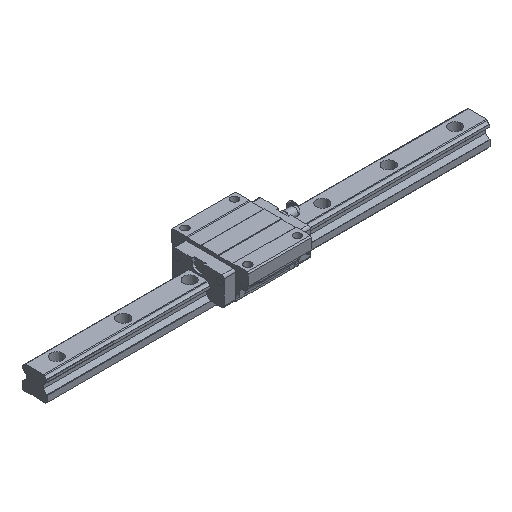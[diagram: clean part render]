
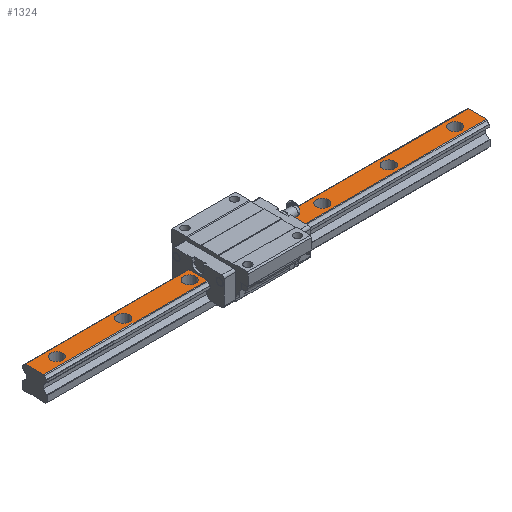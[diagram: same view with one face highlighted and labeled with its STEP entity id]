
A CAD part, isometric view. The second image highlights one B-rep face of the part: STEP entity #1324.
In plain terms, the highlighted planar face has unit normal (0, 0, 1).
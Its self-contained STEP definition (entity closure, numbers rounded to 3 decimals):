
#137=CARTESIAN_POINT('',(385.5,0.,21.7));
#138=VERTEX_POINT('',#137);
#139=CARTESIAN_POINT('',(380.0,0.,21.7));
#140=DIRECTION('',(0.0,0.0,-1.0));
#141=DIRECTION('',(1.0,0.0,0.0));
#142=AXIS2_PLACEMENT_3D('',#139,#140,#141);
#143=CIRCLE('',#142,5.5);
#144=EDGE_CURVE('',#138,#138,#143,.T.);
#247=CARTESIAN_POINT('',(325.5,0.,21.7));
#248=VERTEX_POINT('',#247);
#249=CARTESIAN_POINT('',(320.0,0.,21.7));
#250=DIRECTION('',(0.0,0.0,-1.0));
#251=DIRECTION('',(1.0,0.0,0.0));
#252=AXIS2_PLACEMENT_3D('',#249,#250,#251);
#253=CIRCLE('',#252,5.5);
#254=EDGE_CURVE('',#248,#248,#253,.T.);
#357=CARTESIAN_POINT('',(265.5,0.,21.7));
#358=VERTEX_POINT('',#357);
#359=CARTESIAN_POINT('',(260.0,0.,21.7));
#360=DIRECTION('',(0.0,0.0,-1.0));
#361=DIRECTION('',(1.0,0.0,0.0));
#362=AXIS2_PLACEMENT_3D('',#359,#360,#361);
#363=CIRCLE('',#362,5.5);
#364=EDGE_CURVE('',#358,#358,#363,.T.);
#467=CARTESIAN_POINT('',(205.5,0.,21.7));
#468=VERTEX_POINT('',#467);
#469=CARTESIAN_POINT('',(200.0,0.,21.7));
#470=DIRECTION('',(0.0,0.0,-1.0));
#471=DIRECTION('',(1.0,0.0,0.0));
#472=AXIS2_PLACEMENT_3D('',#469,#470,#471);
#473=CIRCLE('',#472,5.5);
#474=EDGE_CURVE('',#468,#468,#473,.T.);
#577=CARTESIAN_POINT('',(145.5,0.,21.7));
#578=VERTEX_POINT('',#577);
#579=CARTESIAN_POINT('',(140.0,0.,21.7));
#580=DIRECTION('',(0.0,0.0,-1.0));
#581=DIRECTION('',(1.0,0.0,0.0));
#582=AXIS2_PLACEMENT_3D('',#579,#580,#581);
#583=CIRCLE('',#582,5.5);
#584=EDGE_CURVE('',#578,#578,#583,.T.);
#687=CARTESIAN_POINT('',(85.5,0.,21.7));
#688=VERTEX_POINT('',#687);
#689=CARTESIAN_POINT('',(80.0,0.,21.7));
#690=DIRECTION('',(0.0,0.0,-1.0));
#691=DIRECTION('',(1.0,0.0,0.0));
#692=AXIS2_PLACEMENT_3D('',#689,#690,#691);
#693=CIRCLE('',#692,5.5);
#694=EDGE_CURVE('',#688,#688,#693,.T.);
#797=CARTESIAN_POINT('',(25.5,0.,21.7));
#798=VERTEX_POINT('',#797);
#799=CARTESIAN_POINT('',(20.0,0.,21.7));
#800=DIRECTION('',(0.0,0.0,-1.0));
#801=DIRECTION('',(1.0,0.0,0.0));
#802=AXIS2_PLACEMENT_3D('',#799,#800,#801);
#803=CIRCLE('',#802,5.5);
#804=EDGE_CURVE('',#798,#798,#803,.T.);
#1247=CARTESIAN_POINT('',(400.0,-8.284,21.7));
#1248=VERTEX_POINT('',#1247);
#1255=CARTESIAN_POINT('',(0.0,-8.284,21.7));
#1256=VERTEX_POINT('',#1255);
#1257=CARTESIAN_POINT('',(0.0,-8.284,21.7));
#1258=DIRECTION('',(1.0,0.0,0.0));
#1259=VECTOR('',#1258,400.0);
#1260=LINE('',#1257,#1259);
#1261=EDGE_CURVE('',#1256,#1248,#1260,.T.);
#1273=CARTESIAN_POINT('',(0.0,-8.284,21.7));
#1274=DIRECTION('',(0.0,0.0,1.0));
#1275=DIRECTION('',(1.0,0.0,0.0));
#1276=AXIS2_PLACEMENT_3D('',#1273,#1274,#1275);
#1277=PLANE('',#1276);
#1278=CARTESIAN_POINT('',(400.0,8.284,21.7));
#1279=VERTEX_POINT('',#1278);
#1280=CARTESIAN_POINT('',(400.0,-8.284,21.7));
#1281=DIRECTION('',(0.0,1.0,0.0));
#1282=VECTOR('',#1281,16.569);
#1283=LINE('',#1280,#1282);
#1284=EDGE_CURVE('',#1248,#1279,#1283,.T.);
#1285=ORIENTED_EDGE('',*,*,#1284,.T.);
#1286=CARTESIAN_POINT('',(0.0,8.284,21.7));
#1287=VERTEX_POINT('',#1286);
#1288=CARTESIAN_POINT('',(0.0,8.284,21.7));
#1289=DIRECTION('',(1.0,0.0,0.0));
#1290=VECTOR('',#1289,400.0);
#1291=LINE('',#1288,#1290);
#1292=EDGE_CURVE('',#1287,#1279,#1291,.T.);
#1293=ORIENTED_EDGE('',*,*,#1292,.F.);
#1294=CARTESIAN_POINT('',(0.0,-8.284,21.7));
#1295=DIRECTION('',(0.0,1.0,0.0));
#1296=VECTOR('',#1295,16.569);
#1297=LINE('',#1294,#1296);
#1298=EDGE_CURVE('',#1256,#1287,#1297,.T.);
#1299=ORIENTED_EDGE('',*,*,#1298,.F.);
#1300=ORIENTED_EDGE('',*,*,#1261,.T.);
#1301=EDGE_LOOP('',(#1285,#1293,#1299,#1300));
#1302=FACE_OUTER_BOUND('',#1301,.T.);
#1303=ORIENTED_EDGE('',*,*,#144,.T.);
#1304=EDGE_LOOP('',(#1303));
#1305=FACE_BOUND('',#1304,.T.);
#1306=ORIENTED_EDGE('',*,*,#254,.T.);
#1307=EDGE_LOOP('',(#1306));
#1308=FACE_BOUND('',#1307,.T.);
#1309=ORIENTED_EDGE('',*,*,#364,.T.);
#1310=EDGE_LOOP('',(#1309));
#1311=FACE_BOUND('',#1310,.T.);
#1312=ORIENTED_EDGE('',*,*,#474,.T.);
#1313=EDGE_LOOP('',(#1312));
#1314=FACE_BOUND('',#1313,.T.);
#1315=ORIENTED_EDGE('',*,*,#584,.T.);
#1316=EDGE_LOOP('',(#1315));
#1317=FACE_BOUND('',#1316,.T.);
#1318=ORIENTED_EDGE('',*,*,#694,.T.);
#1319=EDGE_LOOP('',(#1318));
#1320=FACE_BOUND('',#1319,.T.);
#1321=ORIENTED_EDGE('',*,*,#804,.T.);
#1322=EDGE_LOOP('',(#1321));
#1323=FACE_BOUND('',#1322,.T.);
#1324=ADVANCED_FACE('',(#1302,#1305,#1308,#1311,#1314,#1317,#1320,#1323),#1277,.T.);
